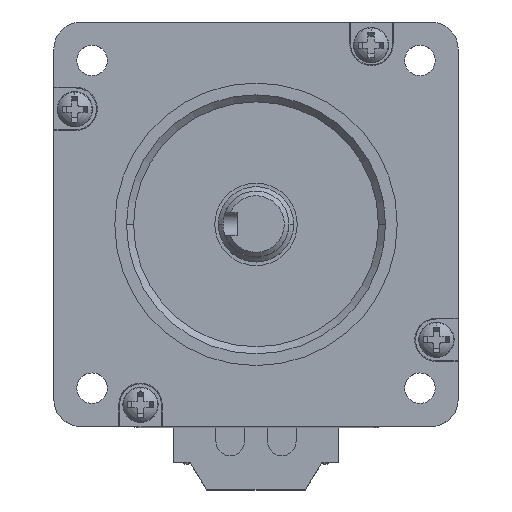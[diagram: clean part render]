
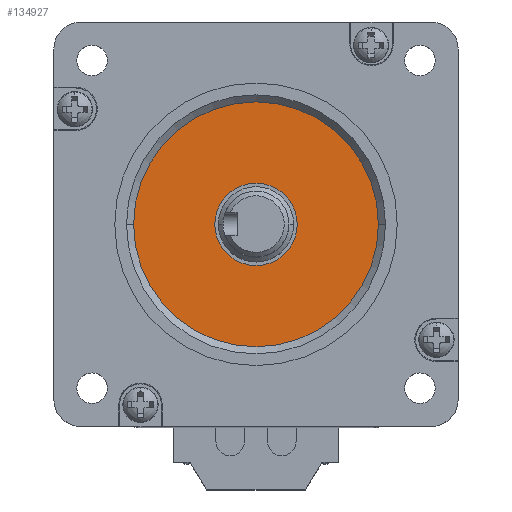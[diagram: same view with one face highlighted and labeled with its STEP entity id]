
A CAD part, top view. The second image highlights one B-rep face of the part: STEP entity #134927.
In plain terms, the highlighted planar face has unit normal (0, 0, 1).
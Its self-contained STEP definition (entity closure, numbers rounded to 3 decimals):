
#2526 = DIRECTION ( 'NONE',  ( 1., 0., 0. ) ) ;
#3527 = EDGE_CURVE ( 'NONE', #9700, #76040, #178204, .T. ) ;
#7003 = CARTESIAN_POINT ( 'NONE',  ( 0., 0., 101. ) ) ;
#9700 = VERTEX_POINT ( 'NONE', #139103 ) ;
#14343 = FACE_BOUND ( 'NONE', #158530, .T. ) ;
#15721 = DIRECTION ( 'NONE',  ( 0., 0., 1. ) ) ;
#15751 = DIRECTION ( 'NONE',  ( 0., 0., 1. ) ) ;
#15756 = CIRCLE ( 'NONE', #123513, 26. ) ;
#19121 = FACE_OUTER_BOUND ( 'NONE', #41615, .T. ) ;
#22261 = DIRECTION ( 'NONE',  ( 1., 0., 0. ) ) ;
#41615 = EDGE_LOOP ( 'NONE', ( #84978, #113379 ) ) ;
#41988 = AXIS2_PLACEMENT_3D ( 'NONE', #7003, #112715, #22261 ) ;
#48208 = DIRECTION ( 'NONE',  ( 0., 0., 1. ) ) ;
#62869 = AXIS2_PLACEMENT_3D ( 'NONE', #138772, #48208, #153989 ) ;
#70035 = EDGE_CURVE ( 'NONE', #151554, #163949, #72423, .T. ) ;
#72423 = CIRCLE ( 'NONE', #139109, 26. ) ;
#76040 = VERTEX_POINT ( 'NONE', #76529 ) ;
#76529 = CARTESIAN_POINT ( 'NONE',  ( 8.75, 0., 101. ) ) ;
#84978 = ORIENTED_EDGE ( 'NONE', *, *, #70035, .T. ) ;
#90941 = CARTESIAN_POINT ( 'NONE',  ( 0., 0., 101. ) ) ;
#92986 = DIRECTION ( 'NONE',  ( 0., 0., 1. ) ) ;
#106172 = CARTESIAN_POINT ( 'NONE',  ( 0., 0., 101. ) ) ;
#112715 = DIRECTION ( 'NONE',  ( 0., 0., 1. ) ) ;
#113379 = ORIENTED_EDGE ( 'NONE', *, *, #186340, .T. ) ;
#117446 = EDGE_CURVE ( 'NONE', #76040, #9700, #156367, .T. ) ;
#121370 = DIRECTION ( 'NONE',  ( 1., 0., 0. ) ) ;
#121390 = DIRECTION ( 'NONE',  ( 1., 0., 0. ) ) ;
#123513 = AXIS2_PLACEMENT_3D ( 'NONE', #183690, #92986, #2526 ) ;
#127556 = ORIENTED_EDGE ( 'NONE', *, *, #117446, .F. ) ;
#132739 = AXIS2_PLACEMENT_3D ( 'NONE', #90941, #15751, #121390 ) ;
#134927 = ADVANCED_FACE ( 'NONE', ( #19121, #14343 ), #151204, .T. ) ;
#138772 = CARTESIAN_POINT ( 'NONE',  ( 0., 0., 101. ) ) ;
#139103 = CARTESIAN_POINT ( 'NONE',  ( -8.75, 0., 101. ) ) ;
#139109 = AXIS2_PLACEMENT_3D ( 'NONE', #106172, #15721, #121370 ) ;
#142572 = CARTESIAN_POINT ( 'NONE',  ( -26., 0., 101. ) ) ;
#151204 = PLANE ( 'NONE',  #132739 ) ;
#151554 = VERTEX_POINT ( 'NONE', #155787 ) ;
#153989 = DIRECTION ( 'NONE',  ( 1., 0., 0. ) ) ;
#155787 = CARTESIAN_POINT ( 'NONE',  ( 26., 0., 101. ) ) ;
#156367 = CIRCLE ( 'NONE', #41988, 8.75 ) ;
#158530 = EDGE_LOOP ( 'NONE', ( #182593, #127556 ) ) ;
#163949 = VERTEX_POINT ( 'NONE', #142572 ) ;
#178204 = CIRCLE ( 'NONE', #62869, 8.75 ) ;
#182593 = ORIENTED_EDGE ( 'NONE', *, *, #3527, .F. ) ;
#183690 = CARTESIAN_POINT ( 'NONE',  ( 0., 0., 101. ) ) ;
#186340 = EDGE_CURVE ( 'NONE', #163949, #151554, #15756, .T. ) ;
